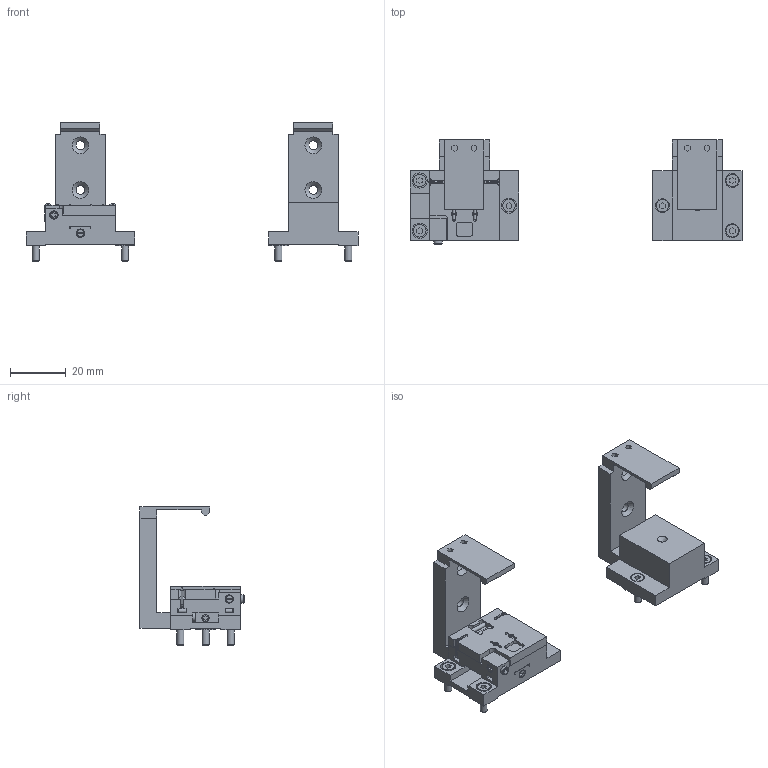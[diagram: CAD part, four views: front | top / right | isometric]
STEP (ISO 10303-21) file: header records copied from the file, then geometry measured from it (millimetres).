
FILE_DESCRIPTION(/* description */ (''),/* implementation_level */ '2;1');
FILE_NAME(/* name */ 'LA_RAM10_SX_XX_A.stp',/* time_stamp */ '2014-11-21T12:45:00+00:00',/* author */ (''),/* organization */ (''),/* preprocessor_version */ 'ST-DEVELOPER v11',/* originating_system */ 'SIEMENS PLM Software NX 7.5',/* authorisation */ '');
FILE_SCHEMA (('CONFIG_CONTROL_DESIGN'));
Length unit declared in the file: millimetre
Products named in the file (1): lr13B258duh9
Bounding box: 119 x 37.3 x 49.5 mm (x, y, z)
Volume: 27368.1 mm3; surface area: 18682.4 mm2
Topology: 8 solids, 18 shells, 645 faces, 1662 edges, 1092 vertices
Faces by surface type: plane 437, cylinder 154, cone 43, torus 8, sphere 3
Full cylindrical faces by diameter (mm): 0.05 x6, 0.5 x6, 0.8 x4, 1.13 x2, 1.5 x6, 1.59 x2, 2 x5, 2.05 x6, 2.135 x2, 2.5 x14, 2.6 x6, 2.7 x7, 2.75 x2, 2.96 x1, 3 x4, 3.122 x3, 3.2 x4, 3.5 x1, 4.5 x8, 5 x7, 5.422 x3, 5.5 x1, 7 x1
Entity records: 19239 total; most frequent: CARTESIAN_POINT 4143, DIRECTION 3098, ORIENTED_EDGE 2842, EDGE_CURVE 1421, AXIS2_PLACEMENT_3D 1057, VERTEX_POINT 1011, LINE 984, VECTOR 984
